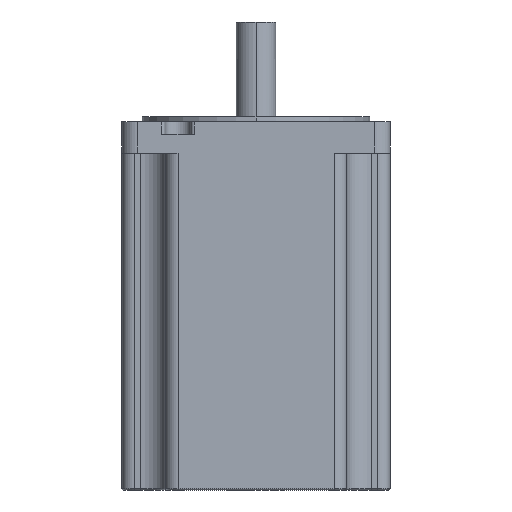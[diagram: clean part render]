
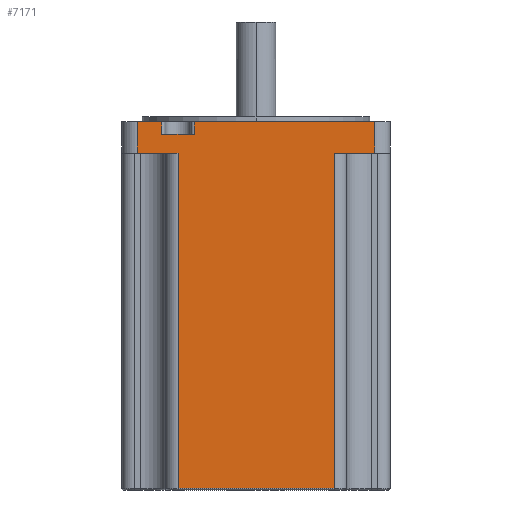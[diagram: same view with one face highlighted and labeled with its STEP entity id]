
A CAD part, left-side view. The second image highlights one B-rep face of the part: STEP entity #7171.
In plain terms, the highlighted planar face has unit normal (-1, 0, 0).
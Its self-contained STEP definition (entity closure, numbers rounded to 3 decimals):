
#335=DIRECTION('',(0.,1.,0.));
#336=VECTOR('',#335,50.);
#337=CARTESIAN_POINT('',(0.,18.,-56.5));
#338=LINE('',#337,#336);
#343=DIRECTION('',(0.,1.,0.));
#344=VECTOR('',#343,7.75);
#345=CARTESIAN_POINT('',(0.,73.25,61.));
#346=LINE('',#345,#344);
#347=DIRECTION('',(0.,1.,0.));
#348=VECTOR('',#347,57.75);
#349=CARTESIAN_POINT('',(0.,5.,61.));
#350=LINE('',#349,#348);
#355=DIRECTION('',(0.,0.,1.));
#356=VECTOR('',#355,107.5);
#357=CARTESIAN_POINT('',(0.,68.,-56.5));
#358=LINE('',#357,#356);
#479=DIRECTION('',(0.,0.,-1.));
#480=VECTOR('',#479,107.5);
#481=CARTESIAN_POINT('',(0.,18.,51.));
#482=LINE('',#481,#480);
#506=DIRECTION('',(0.,1.,0.));
#507=VECTOR('',#506,13.);
#508=CARTESIAN_POINT('',(0.,5.,51.));
#509=LINE('',#508,#507);
#529=DIRECTION('',(0.,0.,-1.));
#530=VECTOR('',#529,10.);
#531=CARTESIAN_POINT('',(0.,5.,61.));
#532=LINE('',#531,#530);
#837=DIRECTION('',(0.,0.,1.));
#838=VECTOR('',#837,4.);
#839=CARTESIAN_POINT('',(0.,62.75,57.));
#840=LINE('',#839,#838);
#845=DIRECTION('',(0.,-1.,0.));
#846=VECTOR('',#845,10.5);
#847=CARTESIAN_POINT('',(0.,73.25,57.));
#848=LINE('',#847,#846);
#874=DIRECTION('',(0.,0.,-1.));
#875=VECTOR('',#874,4.);
#876=CARTESIAN_POINT('',(0.,73.25,61.));
#877=LINE('',#876,#875);
#916=DIRECTION('',(0.,0.,1.));
#917=VECTOR('',#916,10.);
#918=CARTESIAN_POINT('',(0.,81.,51.));
#919=LINE('',#918,#917);
#924=DIRECTION('',(0.,1.,0.));
#925=VECTOR('',#924,13.);
#926=CARTESIAN_POINT('',(0.,68.,51.));
#927=LINE('',#926,#925);
#5924=CARTESIAN_POINT('',(0.,73.25,57.));
#5925=CARTESIAN_POINT('',(0.,62.75,57.));
#5926=VERTEX_POINT('',#5924);
#5927=VERTEX_POINT('',#5925);
#6004=CARTESIAN_POINT('',(0.,81.,61.));
#6005=VERTEX_POINT('',#6004);
#6006=CARTESIAN_POINT('',(0.,73.25,61.));
#6007=VERTEX_POINT('',#6006);
#6016=CARTESIAN_POINT('',(0.,62.75,61.));
#6017=VERTEX_POINT('',#6016);
#6018=CARTESIAN_POINT('',(0.,5.,61.));
#6019=VERTEX_POINT('',#6018);
#6052=CARTESIAN_POINT('',(0.,68.,51.));
#6053=CARTESIAN_POINT('',(0.,81.,51.));
#6054=VERTEX_POINT('',#6052);
#6055=VERTEX_POINT('',#6053);
#6080=CARTESIAN_POINT('',(0.,68.,-56.5));
#6081=VERTEX_POINT('',#6080);
#6082=CARTESIAN_POINT('',(0.,18.,-56.5));
#6083=VERTEX_POINT('',#6082);
#6084=CARTESIAN_POINT('',(0.,18.,51.));
#6085=VERTEX_POINT('',#6084);
#6086=CARTESIAN_POINT('',(0.,5.,51.));
#6087=VERTEX_POINT('',#6086);
#7141=CARTESIAN_POINT('',(0.,86.,61.));
#7142=DIRECTION('',(1.,0.,0.));
#7143=DIRECTION('',(0.,1.,0.));
#7144=AXIS2_PLACEMENT_3D('',#7141,#7142,#7143);
#7145=PLANE('',#7144);
#7147=ORIENTED_EDGE('',*,*,#7146,.T.);
#7149=ORIENTED_EDGE('',*,*,#7148,.T.);
#7151=ORIENTED_EDGE('',*,*,#7150,.T.);
#7153=ORIENTED_EDGE('',*,*,#7152,.F.);
#7155=ORIENTED_EDGE('',*,*,#7154,.T.);
#7157=ORIENTED_EDGE('',*,*,#7156,.T.);
#7159=ORIENTED_EDGE('',*,*,#7158,.T.);
#7161=ORIENTED_EDGE('',*,*,#7160,.F.);
#7163=ORIENTED_EDGE('',*,*,#7162,.T.);
#7165=ORIENTED_EDGE('',*,*,#7164,.T.);
#7167=ORIENTED_EDGE('',*,*,#7166,.T.);
#7168=ORIENTED_EDGE('',*,*,#7133,.T.);
#7169=EDGE_LOOP('',(#7147,#7149,#7151,#7153,#7155,#7157,#7159,#7161,#7163,#7165,
#7167,#7168));
#7170=FACE_OUTER_BOUND('',#7169,.F.);
#7171=ADVANCED_FACE('',(#7170),#7145,.F.);
#7133=EDGE_CURVE('',#6083,#6081,#338,.T.);
#7146=EDGE_CURVE('',#6081,#6054,#358,.T.);
#7148=EDGE_CURVE('',#6054,#6055,#927,.T.);
#7150=EDGE_CURVE('',#6055,#6005,#919,.T.);
#7152=EDGE_CURVE('',#6007,#6005,#346,.T.);
#7154=EDGE_CURVE('',#6007,#5926,#877,.T.);
#7156=EDGE_CURVE('',#5926,#5927,#848,.T.);
#7158=EDGE_CURVE('',#5927,#6017,#840,.T.);
#7160=EDGE_CURVE('',#6019,#6017,#350,.T.);
#7162=EDGE_CURVE('',#6019,#6087,#532,.T.);
#7164=EDGE_CURVE('',#6087,#6085,#509,.T.);
#7166=EDGE_CURVE('',#6085,#6083,#482,.T.);
